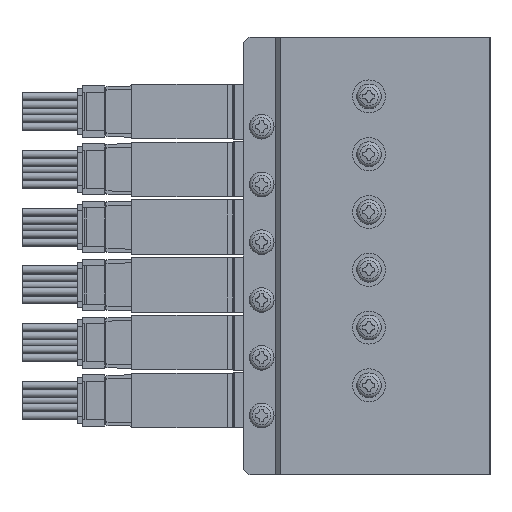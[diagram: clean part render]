
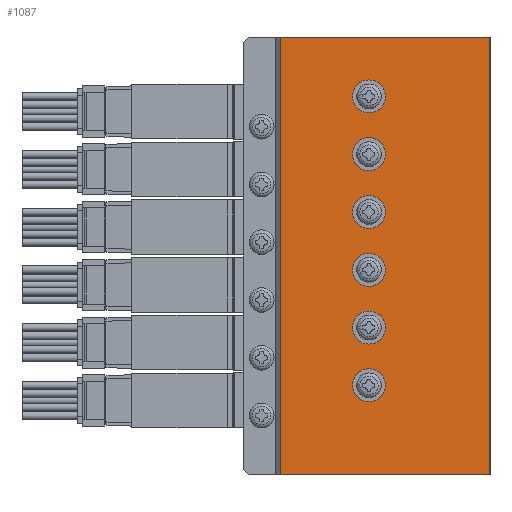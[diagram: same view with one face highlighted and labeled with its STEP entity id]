
A CAD part, left-side view. The second image highlights one B-rep face of the part: STEP entity #1087.
In plain terms, the highlighted planar face has unit normal (-1, 0, 0) as drawn and (1, 0, 0) by its records, which use the part's own axes.
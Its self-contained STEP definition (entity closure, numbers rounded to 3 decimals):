
#1087=ADVANCED_FACE('',(#2451,#2452,#2453,#2454,#2455,#2456,#2457),#2458,.F.);
#2451=FACE_OUTER_BOUND('',#3914,.T.);
#2452=FACE_BOUND('',#3915,.T.);
#2453=FACE_BOUND('',#3916,.T.);
#2454=FACE_BOUND('',#3917,.T.);
#2455=FACE_BOUND('',#3918,.T.);
#2456=FACE_BOUND('',#3919,.T.);
#2457=FACE_BOUND('',#3920,.T.);
#2458=PLANE('',#3921);
#3914=EDGE_LOOP('',(#8415,#8416,#8417,#8418));
#3915=EDGE_LOOP('',(#8419));
#3916=EDGE_LOOP('',(#8420));
#3917=EDGE_LOOP('',(#8421));
#3918=EDGE_LOOP('',(#8422));
#3919=EDGE_LOOP('',(#8423));
#3920=EDGE_LOOP('',(#8424));
#3921=AXIS2_PLACEMENT_3D('',#8425,#8426,#8427);
#8415=ORIENTED_EDGE('',*,*,#10113,.T.);
#8416=ORIENTED_EDGE('',*,*,#10112,.F.);
#8417=ORIENTED_EDGE('',*,*,#10114,.F.);
#8418=ORIENTED_EDGE('',*,*,#10115,.T.);
#8419=ORIENTED_EDGE('',*,*,#9965,.F.);
#8420=ORIENTED_EDGE('',*,*,#9963,.F.);
#8421=ORIENTED_EDGE('',*,*,#9961,.F.);
#8422=ORIENTED_EDGE('',*,*,#9959,.F.);
#8423=ORIENTED_EDGE('',*,*,#9957,.F.);
#8424=ORIENTED_EDGE('',*,*,#9955,.F.);
#8425=CARTESIAN_POINT('',(19.0,0.0,39.75));
#8426=DIRECTION('',(-1.0,0.0,0.0));
#8427=DIRECTION('',(0.0,0.0,1.0));
#9955=EDGE_CURVE('',#12263,#12263,#12264,.T.);
#9957=EDGE_CURVE('',#12267,#12267,#12268,.T.);
#9959=EDGE_CURVE('',#12271,#12271,#12272,.T.);
#9961=EDGE_CURVE('',#12275,#12275,#12276,.T.);
#9963=EDGE_CURVE('',#12279,#12279,#12280,.T.);
#9965=EDGE_CURVE('',#12283,#12283,#12284,.T.);
#10112=EDGE_CURVE('',#12529,#12527,#12531,.T.);
#10113=EDGE_CURVE('',#12532,#12527,#12533,.T.);
#10114=EDGE_CURVE('',#12534,#12529,#12535,.T.);
#10115=EDGE_CURVE('',#12534,#12532,#12536,.T.);
#12263=VERTEX_POINT('',#16751);
#12264=CIRCLE('',#16752,3.0);
#12267=VERTEX_POINT('',#16755);
#12268=CIRCLE('',#16756,3.0);
#12271=VERTEX_POINT('',#16759);
#12272=CIRCLE('',#16760,3.0);
#12275=VERTEX_POINT('',#16763);
#12276=CIRCLE('',#16764,3.0);
#12279=VERTEX_POINT('',#16767);
#12280=CIRCLE('',#16768,3.0);
#12283=VERTEX_POINT('',#16771);
#12284=CIRCLE('',#16772,3.0);
#12527=VERTEX_POINT('',#17261);
#12529=VERTEX_POINT('',#17264);
#12531=LINE('',#17267,#17268);
#12532=VERTEX_POINT('',#17269);
#12533=LINE('',#17270,#17271);
#12534=VERTEX_POINT('',#17272);
#12535=LINE('',#17273,#17274);
#12536=LINE('',#17275,#17276);
#16751=CARTESIAN_POINT('',(19.0,22.0,10.0));
#16752=AXIS2_PLACEMENT_3D('',#19119,#19120,#19121);
#16755=CARTESIAN_POINT('',(19.0,22.0,-0.5));
#16756=AXIS2_PLACEMENT_3D('',#19125,#19126,#19127);
#16759=CARTESIAN_POINT('',(19.0,22.0,-11.0));
#16760=AXIS2_PLACEMENT_3D('',#19131,#19132,#19133);
#16763=CARTESIAN_POINT('',(19.0,22.0,-21.5));
#16764=AXIS2_PLACEMENT_3D('',#19137,#19138,#19139);
#16767=CARTESIAN_POINT('',(19.0,22.0,-32.0));
#16768=AXIS2_PLACEMENT_3D('',#19143,#19144,#19145);
#16771=CARTESIAN_POINT('',(19.0,22.0,20.5));
#16772=AXIS2_PLACEMENT_3D('',#19149,#19150,#19151);
#17261=CARTESIAN_POINT('',(19.0,38.0,-39.75));
#17264=CARTESIAN_POINT('',(19.0,38.0,39.75));
#17267=CARTESIAN_POINT('',(19.0,38.0,39.75));
#17268=VECTOR('',#19409,1.0);
#17269=CARTESIAN_POINT('',(19.0,0.0,-39.75));
#17270=CARTESIAN_POINT('',(19.0,0.0,-39.75));
#17271=VECTOR('',#19410,1.0);
#17272=CARTESIAN_POINT('',(19.0,0.0,39.75));
#17273=CARTESIAN_POINT('',(19.0,0.0,39.75));
#17274=VECTOR('',#19411,1.0);
#17275=CARTESIAN_POINT('',(19.0,0.0,39.75));
#17276=VECTOR('',#19412,1.0);
#19119=CARTESIAN_POINT('',(19.0,22.0,13.0));
#19120=DIRECTION('',(1.0,0.0,0.0));
#19121=DIRECTION('',(0.0,0.0,-1.0));
#19125=CARTESIAN_POINT('',(19.0,22.0,2.5));
#19126=DIRECTION('',(1.0,0.0,0.0));
#19127=DIRECTION('',(0.0,0.0,-1.0));
#19131=CARTESIAN_POINT('',(19.0,22.0,-8.0));
#19132=DIRECTION('',(1.0,0.0,0.0));
#19133=DIRECTION('',(0.0,0.0,-1.0));
#19137=CARTESIAN_POINT('',(19.0,22.0,-18.5));
#19138=DIRECTION('',(1.0,0.0,0.0));
#19139=DIRECTION('',(0.0,0.0,-1.0));
#19143=CARTESIAN_POINT('',(19.0,22.0,-29.0));
#19144=DIRECTION('',(1.0,0.0,0.0));
#19145=DIRECTION('',(0.0,0.0,-1.0));
#19149=CARTESIAN_POINT('',(19.0,22.0,23.5));
#19150=DIRECTION('',(1.0,0.0,0.0));
#19151=DIRECTION('',(0.0,0.0,-1.0));
#19409=DIRECTION('',(0.0,0.0,-1.0));
#19410=DIRECTION('',(0.0,1.0,0.0));
#19411=DIRECTION('',(0.0,1.0,0.0));
#19412=DIRECTION('',(0.0,0.0,-1.0));
